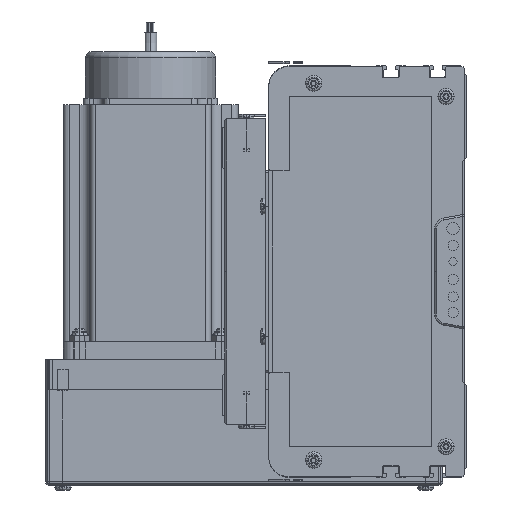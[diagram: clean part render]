
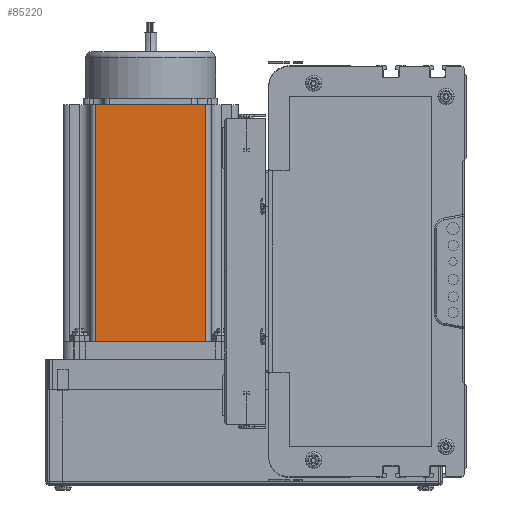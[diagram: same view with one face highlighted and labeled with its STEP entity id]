
A CAD part, left-side view. The second image highlights one B-rep face of the part: STEP entity #85220.
In plain terms, the highlighted planar face has unit normal (-1, 0, 0) as drawn and (0, -1, 0) by its records, which use the part's own axes.
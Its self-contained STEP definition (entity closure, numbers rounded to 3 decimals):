
#58314 = CARTESIAN_POINT ( 'NONE',  ( 69.74, 0., 0. ) ) ;
#59452 = CARTESIAN_POINT ( 'NONE',  ( 16.16, 0., 0. ) ) ;
#59507 = DIRECTION ( 'NONE',  ( 1., 0., 0. ) ) ;
#59509 = VECTOR ( 'NONE', #59507, 1000. ) ;
#59513 = CARTESIAN_POINT ( 'NONE',  ( 16.16, 0., 116.5 ) ) ;
#59519 = CARTESIAN_POINT ( 'NONE',  ( 0., 0., 116.5 ) ) ;
#59520 = LINE ( 'NONE', #59519, #59509 ) ;
#59542 = CARTESIAN_POINT ( 'NONE',  ( 69.74, 0., 116.5 ) ) ;
#59593 = DIRECTION ( 'NONE',  ( 0., 0., 1. ) ) ;
#59595 = DIRECTION ( 'NONE',  ( 0., 1., 0. ) ) ;
#59596 = CARTESIAN_POINT ( 'NONE',  ( 0., 0., 116.5 ) ) ;
#59613 = PLANE ( 'NONE',  #59623 ) ;
#59623 = AXIS2_PLACEMENT_3D ( 'NONE', #59596, #59595, #59593 ) ;
#59625 = FACE_OUTER_BOUND ( 'NONE', #85078, .T. ) ;
#61887 = DIRECTION ( 'NONE',  ( 0., 0., 1. ) ) ;
#61889 = VECTOR ( 'NONE', #61887, 1000. ) ;
#61891 = CARTESIAN_POINT ( 'NONE',  ( 69.74, 0., 116.5 ) ) ;
#61899 = LINE ( 'NONE', #61952, #61950 ) ;
#61906 = LINE ( 'NONE', #61891, #61889 ) ;
#61949 = DIRECTION ( 'NONE',  ( 1., 0., 0. ) ) ;
#61950 = VECTOR ( 'NONE', #61949, 1000. ) ;
#61952 = CARTESIAN_POINT ( 'NONE',  ( 0., 0., 0. ) ) ;
#62078 = DIRECTION ( 'NONE',  ( 0., 0., -1. ) ) ;
#62080 = VECTOR ( 'NONE', #62078, 1000. ) ;
#62087 = CARTESIAN_POINT ( 'NONE',  ( 16.16, 0., 116.5 ) ) ;
#62088 = LINE ( 'NONE', #62087, #62080 ) ;
#84997 = VERTEX_POINT ( 'NONE', #58314 ) ;
#84998 = ORIENTED_EDGE ( 'NONE', *, *, #85347, .T. ) ;
#85078 = EDGE_LOOP ( 'NONE', ( #84998, #85563, #85360, #85279 ) ) ;
#85195 = EDGE_CURVE ( 'NONE', #85196, #85199, #59520, .T. ) ;
#85196 = VERTEX_POINT ( 'NONE', #59513 ) ;
#85199 = VERTEX_POINT ( 'NONE', #59542 ) ;
#85203 = VERTEX_POINT ( 'NONE', #59452 ) ;
#85220 = ADVANCED_FACE ( 'NONE', ( #59625 ), #59613, .F. ) ;
#85279 = ORIENTED_EDGE ( 'NONE', *, *, #85391, .T. ) ;
#85330 = EDGE_CURVE ( 'NONE', #84997, #85199, #61906, .T. ) ;
#85347 = EDGE_CURVE ( 'NONE', #85203, #84997, #61899, .T. ) ;
#85360 = ORIENTED_EDGE ( 'NONE', *, *, #85195, .F. ) ;
#85391 = EDGE_CURVE ( 'NONE', #85196, #85203, #62088, .T. ) ;
#85563 = ORIENTED_EDGE ( 'NONE', *, *, #85330, .T. ) ;
